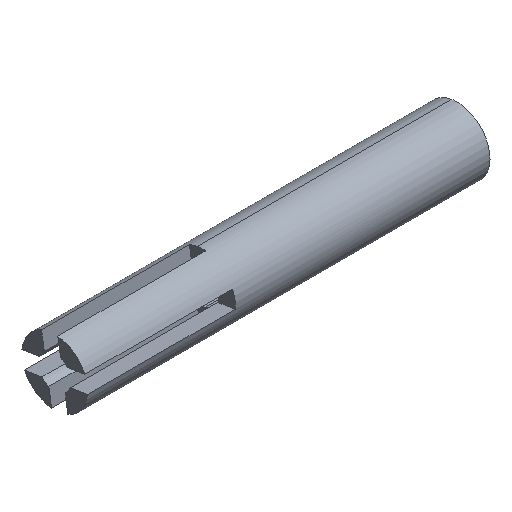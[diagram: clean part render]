
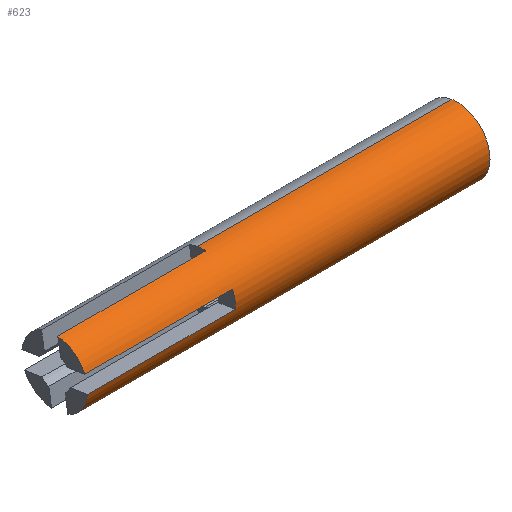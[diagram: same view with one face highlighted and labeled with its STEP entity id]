
A CAD part, isometric view. The second image highlights one B-rep face of the part: STEP entity #623.
In plain terms, the highlighted cylindrical face has radius 4 mm (diameter 8 mm), a partial arc.
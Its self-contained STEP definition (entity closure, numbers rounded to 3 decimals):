
#35=CARTESIAN_POINT('',(-49.585,-3.665,56.889));
#36=VERTEX_POINT('',#35);
#54=CARTESIAN_POINT('',(-49.585,-3.983,54.915));
#55=VERTEX_POINT('',#54);
#62=CARTESIAN_POINT('',(-49.585,0.,55.286));
#63=DIRECTION('',(0.,-0.996,-0.093));
#64=DIRECTION('',(-1.,0.,0.));
#65=AXIS2_PLACEMENT_3D('',#62,#64,#63);
#66=CIRCLE('',#65,4.);
#67=EDGE_CURVE('',#55,#36,#66,.T.);
#105=CARTESIAN_POINT('',(-49.585,-0.371,59.269));
#106=VERTEX_POINT('',#105);
#113=CARTESIAN_POINT('',(-49.585,0.636,59.235));
#114=VERTEX_POINT('',#113);
#115=CARTESIAN_POINT('',(-49.585,0.,55.286));
#116=DIRECTION('',(0.,-0.093,0.996));
#117=DIRECTION('',(-1.,0.,0.));
#118=AXIS2_PLACEMENT_3D('',#115,#117,#116);
#119=CIRCLE('',#118,4.);
#120=EDGE_CURVE('',#106,#114,#119,.T.);
#189=CARTESIAN_POINT('',(-49.585,-0.636,51.337));
#190=VERTEX_POINT('',#189);
#198=CARTESIAN_POINT('',(-49.585,-1.603,51.621));
#199=VERTEX_POINT('',#198);
#200=CARTESIAN_POINT('',(-49.585,0.,55.286));
#201=DIRECTION('',(0.,-0.159,-0.987));
#202=DIRECTION('',(-1.,0.,0.));
#203=AXIS2_PLACEMENT_3D('',#200,#202,#201);
#204=CIRCLE('',#203,4.);
#205=EDGE_CURVE('',#190,#199,#204,.T.);
#248=CARTESIAN_POINT('',(-67.585,-0.371,59.269));
#249=VERTEX_POINT('',#248);
#256=CARTESIAN_POINT('',(-67.585,-0.371,59.269));
#257=DIRECTION('',(1.,0.,0.));
#258=VECTOR('',#257,18.);
#259=LINE('',#256,#258);
#260=EDGE_CURVE('',#249,#106,#259,.T.);
#270=CARTESIAN_POINT('',(-67.585,-1.603,51.621));
#271=VERTEX_POINT('',#270);
#287=CARTESIAN_POINT('',(-49.585,-1.603,51.621));
#288=DIRECTION('',(-1.,0.,0.));
#289=VECTOR('',#288,18.);
#290=LINE('',#287,#289);
#291=EDGE_CURVE('',#199,#271,#290,.T.);
#363=CARTESIAN_POINT('',(-67.585,-3.665,56.889));
#364=VERTEX_POINT('',#363);
#380=CARTESIAN_POINT('',(-49.585,-3.665,56.889));
#381=DIRECTION('',(-1.,0.,0.));
#382=VECTOR('',#381,18.);
#383=LINE('',#380,#382);
#384=EDGE_CURVE('',#36,#364,#383,.T.);
#465=CARTESIAN_POINT('',(-67.585,-3.983,54.915));
#466=VERTEX_POINT('',#465);
#473=CARTESIAN_POINT('',(-67.585,-3.983,54.915));
#474=DIRECTION('',(1.,0.,0.));
#475=VECTOR('',#474,18.);
#476=LINE('',#473,#475);
#477=EDGE_CURVE('',#466,#55,#476,.T.);
#572=CARTESIAN_POINT('',(-18.585,0.,55.286));
#573=DIRECTION('',(0.,-0.159,-0.987));
#574=DIRECTION('',(-1.,0.,0.));
#575=AXIS2_PLACEMENT_3D('',#572,#574,#573);
#576=CYLINDRICAL_SURFACE('',#575,4.);
#577=CARTESIAN_POINT('',(-18.585,0.636,59.235));
#578=VERTEX_POINT('',#577);
#579=CARTESIAN_POINT('',(-18.585,0.636,59.235));
#580=DIRECTION('',(-1.,0.,0.));
#581=VECTOR('',#580,31.);
#582=LINE('',#579,#581);
#583=EDGE_CURVE('',#578,#114,#582,.T.);
#584=ORIENTED_EDGE('E49',*,*,#583,.T.);
#585=ORIENTED_EDGE('E49',*,*,#120,.F.);
#586=ORIENTED_EDGE('E49',*,*,#260,.F.);
#587=CARTESIAN_POINT('',(-67.585,0.,55.286));
#588=DIRECTION('',(0.,-0.093,0.996));
#589=DIRECTION('',(1.,0.,0.));
#590=AXIS2_PLACEMENT_3D('',#587,#589,#588);
#591=CIRCLE('',#590,4.);
#592=EDGE_CURVE('',#249,#364,#591,.T.);
#593=ORIENTED_EDGE('E50',*,*,#592,.T.);
#594=ORIENTED_EDGE('E50',*,*,#384,.F.);
#595=ORIENTED_EDGE('E50',*,*,#67,.F.);
#596=ORIENTED_EDGE('E50',*,*,#477,.F.);
#597=CARTESIAN_POINT('',(-67.585,0.,55.286));
#598=DIRECTION('',(0.,-0.996,-0.093));
#599=DIRECTION('',(1.,0.,0.));
#600=AXIS2_PLACEMENT_3D('',#597,#599,#598);
#601=CIRCLE('',#600,4.);
#602=EDGE_CURVE('',#466,#271,#601,.T.);
#603=ORIENTED_EDGE('E51',*,*,#602,.T.);
#604=ORIENTED_EDGE('E51',*,*,#291,.F.);
#605=ORIENTED_EDGE('E51',*,*,#205,.F.);
#606=CARTESIAN_POINT('',(-18.585,-0.636,51.337));
#607=VERTEX_POINT('',#606);
#608=CARTESIAN_POINT('',(-49.585,-0.636,51.337));
#609=DIRECTION('',(1.,0.,0.));
#610=VECTOR('',#609,31.);
#611=LINE('',#608,#610);
#612=EDGE_CURVE('',#190,#607,#611,.T.);
#613=ORIENTED_EDGE('E52',*,*,#612,.T.);
#614=CARTESIAN_POINT('',(-18.585,0.,55.286));
#615=DIRECTION('',(0.,-0.159,-0.987));
#616=DIRECTION('',(-1.,0.,0.));
#617=AXIS2_PLACEMENT_3D('',#614,#616,#615);
#618=CIRCLE('',#617,4.);
#619=EDGE_CURVE('',#607,#578,#618,.T.);
#620=ORIENTED_EDGE('E60',*,*,#619,.T.);
#621=EDGE_LOOP('',(#584,#585,#586,#593,#594,#595,#596,#603,#604,#605,#613,#620));
#622=FACE_OUTER_BOUND('',#621,.T.);
#623=ADVANCED_FACE('F15',(#622),#576,.T.);
